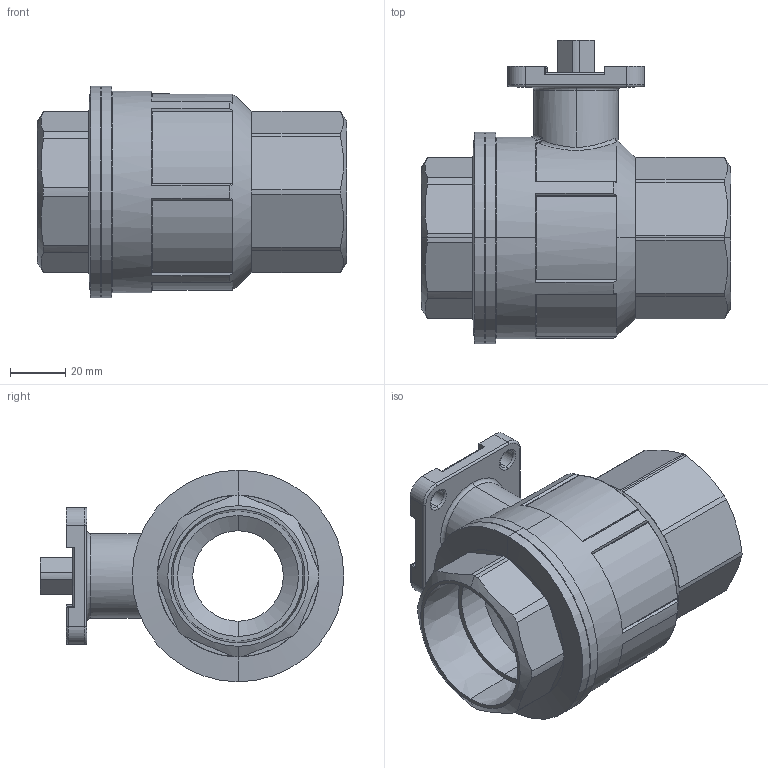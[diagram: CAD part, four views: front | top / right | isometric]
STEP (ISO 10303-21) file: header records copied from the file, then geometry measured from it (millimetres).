
FILE_DESCRIPTION (( 'STEP AP203' ), '1' );
FILE_NAME ('S2F-12.STEP', '2021-06-30T19:09:42', ( 'Owner' ), ( '' ), 'SwSTEP 2.0', 'SolidWorks 2017', '' );
FILE_SCHEMA (( 'CONFIG_CONTROL_DESIGN' ));
Length unit declared in the file: inch
Products named in the file (2): S2F-12
Bounding box: 111.73 x 109.73 x 76.45 mm (x, y, z)
Volume: 248057.8 mm3; surface area: 51062.3 mm2
Topology: 1 solids, 2 shells, 282 faces, 718 edges, 440 vertices
Faces by surface type: cylinder 96, plane 92, bspline 34, torus 32, cone 28
Entity records: 10090 total; most frequent: CARTESIAN_POINT 3338, ORIENTED_EDGE 1424, DIRECTION 1369, EDGE_CURVE 712, AXIS2_PLACEMENT_3D 551, VERTEX_POINT 440, CIRCLE 301, EDGE_LOOP 298
